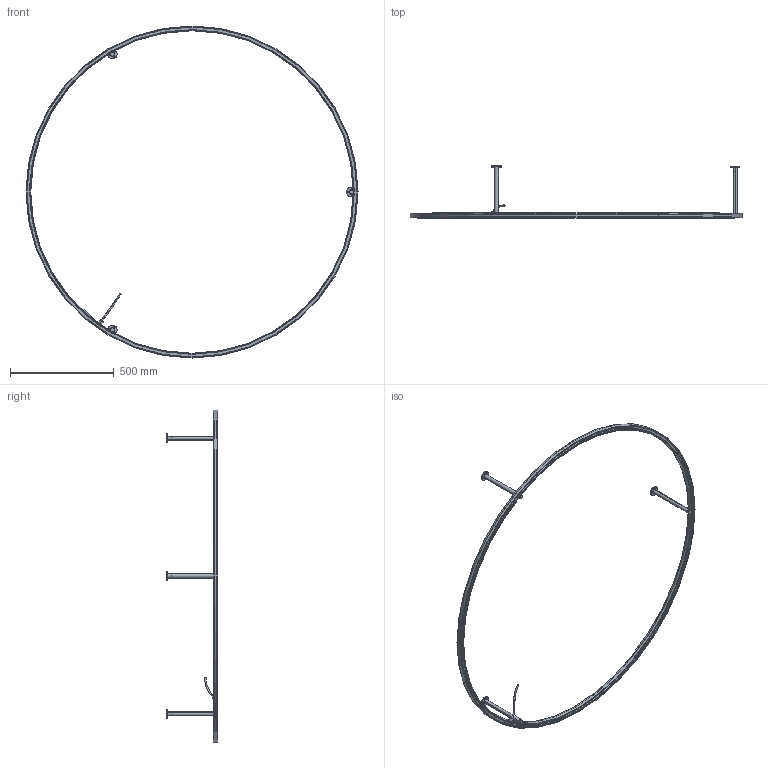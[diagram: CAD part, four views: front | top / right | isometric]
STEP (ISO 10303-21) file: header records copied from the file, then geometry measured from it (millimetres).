
FILE_DESCRIPTION (( 'STEP AP203' ), '1' );
FILE_NAME ('PLUL2160LEDXXXX-PER 3D.STEP', '2024-05-28T17:22:49', ( '' ), ( '' ), 'SwSTEP 2.0', 'SolidWorks 2024', '' );
FILE_SCHEMA (( 'CONFIG_CONTROL_DESIGN' ));
Length unit declared in the file: millimetre
Products named in the file (7): ACPLULA250XXXXX; TANG YAO-7727-P415 + RIV TESSILE 33- PER ANELLI; WSCM2A0022-0700-00; WSCM2A0029-0700-01; WSCM2A0030-0700-01; PLUL2160LEDXXXX-PER 3D; WSCM2D0020-0700-00
Assembly tree (8 placements, depth 3):
  PLUL2160LEDXXXX-PER 3D
    WSCM2D0020-0700-00
    WSCM2A0022-0700-00
    ACPLULA250XXXXX  x3
      WSCM2A0030-0700-01
      WSCM2A0029-0700-01
    TANG YAO-7727-P415 + RIV TESSILE 33- PER ANELLI
Bounding box: 1600 x 250 x 1600 mm (x, y, z)
Volume: 1365928.4 mm3; surface area: 828122.6 mm2
Topology: 9 solids, 9 shells, 358 faces, 822 edges, 492 vertices
Faces by surface type: cylinder 102, cone 99, torus 74, plane 63, bspline 20
Entity records: 15946 total; most frequent: CARTESIAN_POINT 9378, DIRECTION 1276, ORIENTED_EDGE 1180, EDGE_CURVE 590, AXIS2_PLACEMENT_3D 567, VERTEX_POINT 356, CIRCLE 317, EDGE_LOOP 288
